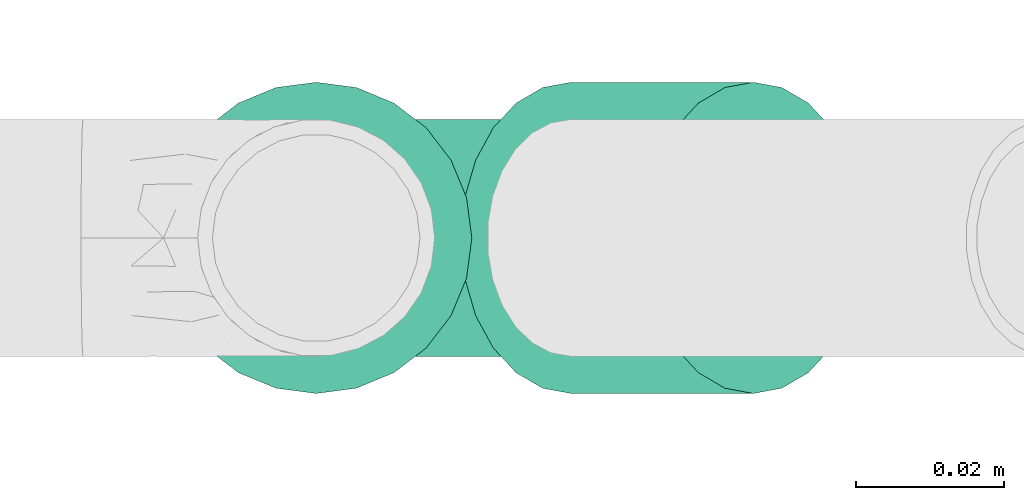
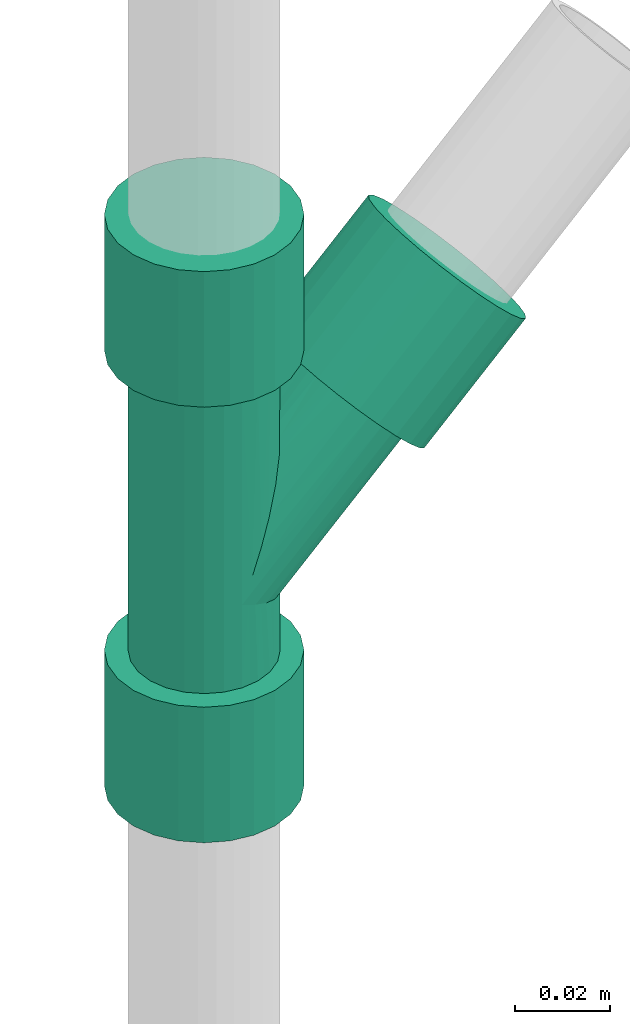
# One storey, part 61 of 83: 1 flow fitting.
"""IFC2X3 building model written with IfcOpenShell, lengths in millimetres."""

import ifcopenshell
import ifcopenshell.guid

model = None  # the IFC model being written
_history = None  # IfcOwnerHistory: only IFC2X3 demands one
_inside = {}  # id of a spatial element -> (the spatial element, [elements in it])
_under = {}  # id of a project, library or spatial element -> (it, [spatial elements below it])
_declared = {}  # id of a project -> (the project, [libraries it declares])
_typed = {}  # id of a type object -> (the type object, [elements of that type])
_made_of = {}  # id of a material, layer set ... -> (it, [elements and type objects made of it])


def new_model(schema):
    """Start an empty IFC model of exactly this schema.

    Asked for "IFC4X3", IfcOpenShell would pick the latest addendum, in which some entities
    have other attributes; the version numbers below select the first issue.
    IFC2X3 requires an IfcOwnerHistory on every rooted entity: one is made here for all.
    """
    global model, _history
    if schema == "IFC4X3":
        model = ifcopenshell.file(schema_version=(4, 3, 0, 0))
    else:
        model = ifcopenshell.file(schema=schema)
    _inside.clear()
    _under.clear()
    _declared.clear()
    _typed.clear()
    _made_of.clear()
    _history = None
    if model.schema == "IFC2X3":
        org = make("IfcOrganization", Name="unknown")
        user = make(
            "IfcPersonAndOrganization",
            ThePerson=make("IfcPerson", FamilyName="unknown"),
            TheOrganization=org,
        )
        app = make(
            "IfcApplication",
            ApplicationDeveloper=org,
            Version="unknown",
            ApplicationFullName="unknown",
            ApplicationIdentifier="unknown",
        )
        _history = make(
            "IfcOwnerHistory",
            OwningUser=user,
            OwningApplication=app,
            ChangeAction="ADDED",
            CreationDate=0,
        )
    return model


def make(cls, **values):
    """One entity of the class cls with the attributes given. An attribute that is None is left unset."""
    return model.create_entity(
        cls, **{name: value for name, value in values.items() if value is not None}
    )


def entity(cls, *values):
    """Any entity or typed value of the class cls, its attributes in the order of the schema. None: left unset."""
    e = model.create_entity(cls)
    for i, value in enumerate(values):
        if value is not None:
            e[i] = value
    return e


def rooted(cls, **values):
    """An entity with a GlobalId (a new one), such as an element, a storey or a relation."""
    return make(cls, GlobalId=ifcopenshell.guid.new(), OwnerHistory=_history, **values)


def si_unit(unit_type, name, prefix=None):
    """IfcSIUnit, for example si_unit("LENGTHUNIT", "METRE", prefix="MILLI")."""
    return make("IfcSIUnit", UnitType=unit_type, Prefix=prefix, Name=name)


def converted_unit(unit_type, name, factor, base, dimensions=None, offset=None):
    """IfcConversionBasedUnit, such as the inch: factor (a typed value) times the base unit."""
    return make(
        "IfcConversionBasedUnit"
        if offset is None
        else "IfcConversionBasedUnitWithOffset",
        ConversionOffset=offset,
        Dimensions=None
        if dimensions is None
        else entity("IfcDimensionalExponents", *dimensions),
        UnitType=unit_type,
        Name=name,
        ConversionFactor=make(
            "IfcMeasureWithUnit", ValueComponent=factor, UnitComponent=base
        ),
    )


def derived_unit(unit_type, elements):
    """IfcDerivedUnit: a product of units, each with its exponent."""
    return make(
        "IfcDerivedUnit",
        Elements=[
            make("IfcDerivedUnitElement", Unit=unit, Exponent=power)
            for unit, power in elements
        ],
        UnitType=unit_type,
    )


def assignment(units):
    """IfcUnitAssignment: the units of a project."""
    return None if units is None else make("IfcUnitAssignment", Units=units)


def point(xyz):
    """IfcCartesianPoint."""
    return None if xyz is None else make("IfcCartesianPoint", Coordinates=xyz)


def direction(xyz):
    """IfcDirection."""
    return None if xyz is None else make("IfcDirection", DirectionRatios=xyz)


def frame(location, z_axis=None, x_axis=None):
    """IfcAxis2Placement3D, a coordinate frame: its origin and axes. An axis left out is left unset."""
    return make(
        "IfcAxis2Placement3D",
        Location=point(location),
        Axis=direction(z_axis),
        RefDirection=direction(x_axis),
    )


def origin_with_axes():
    """The frame at (0, 0, 0) with the z axis (0, 0, 1) and the x axis (1, 0, 0) written out."""
    return frame((0.0, 0.0, 0.0), z_axis=(0.0, 0.0, 1.0), x_axis=(1.0, 0.0, 0.0))


def place(relative_to, where):
    """IfcLocalPlacement: puts the frame where relative to a parent placement (None: the world)."""
    return make(
        "IfcLocalPlacement", PlacementRelTo=relative_to, RelativePlacement=where
    )


def context(
    kind, dimensions, precision=None, world=None, true_north=None, identifier=None
):
    """IfcGeometricRepresentationContext, for example the 3D "Model" context."""
    return make(
        "IfcGeometricRepresentationContext",
        ContextIdentifier=identifier,
        ContextType=kind,
        CoordinateSpaceDimension=dimensions,
        Precision=precision,
        WorldCoordinateSystem=world,
        TrueNorth=true_north,
    )


def subcontext(parent, identifier, kind, view, scale=None):
    """IfcGeometricRepresentationSubContext, for example "Body" below "Model"."""
    return make(
        "IfcGeometricRepresentationSubContext",
        ContextIdentifier=identifier,
        ContextType=kind,
        ParentContext=parent,
        TargetScale=scale,
        TargetView=view,
    )


def project(units=None, contexts=None):
    """IfcProject with its units and contexts."""
    return rooted(
        "IfcProject",
        Name="project",
        RepresentationContexts=contexts,
        UnitsInContext=assignment(units),
    )


def spatial(cls, under=None, at=None, **own):
    """A site, building, storey or space (cls), placed at a placement, below another one or the project."""
    s = rooted(cls, ObjectPlacement=at, **own)
    if under is not None:
        _under.setdefault(under.id(), (under, []))[1].append(s)
    return s


def faces_of(points, faces, orient=None, outer=None):
    """IfcFace entities. A face is a list of loops; a loop is a list of indices into points, from 0.

    orient and outer hold one flag for each loop. By default every Orientation is true, the
    first loop of a face is its IfcFaceOuterBound and the others are IfcFaceBound.
    """
    made = []
    for i, loops in enumerate(faces):
        bounds = []
        for j, loop in enumerate(loops):
            is_outer = j == 0 if outer is None else outer[i][j]
            bounds.append(
                make(
                    "IfcFaceOuterBound" if is_outer else "IfcFaceBound",
                    Bound=make("IfcPolyLoop", Polygon=[points[k] for k in loop]),
                    Orientation=True if orient is None else orient[i][j],
                )
            )
        made.append(make("IfcFace", Bounds=bounds))
    return made


def open_shell(faces, orient=None, outer=None):
    """The faces of one IfcOpenShell. surface_model builds it on its shared points."""
    return ("IfcOpenShell", faces, orient, outer)


def surface_model(cls, points, shells):
    """IfcFaceBasedSurfaceModel or IfcShellBasedSurfaceModel (cls): surfaces that need not close."""
    shared = [point(p) for p in points]
    made = [make(c, CfsFaces=faces_of(shared, fs, o, b)) for c, fs, o, b in shells]
    if cls == "IfcFaceBasedSurfaceModel":
        return make(cls, FbsmFaces=made)
    return make(cls, SbsmBoundary=made)


def shape(context_of_items, identifier, shape_type, items):
    """IfcShapeRepresentation: the items that make up one representation, for example the "Body"."""
    return make(
        "IfcShapeRepresentation",
        ContextOfItems=context_of_items,
        RepresentationIdentifier=identifier,
        RepresentationType=shape_type,
        Items=items,
    )


def source(mapping_origin, context_of_items, identifier, shape_type, items):
    """IfcRepresentationMap: a shape defined once, which mapped items show again and again."""
    return make(
        "IfcRepresentationMap",
        MappingOrigin=mapping_origin,
        MappedRepresentation=shape(context_of_items, identifier, shape_type, items),
    )


def transform(
    local_origin,
    x_axis=None,
    y_axis=None,
    z_axis=None,
    scale=None,
    scale2=None,
    scale3=None,
    uniform=True,
):
    """IfcCartesianTransformationOperator3D, or its non-uniform kind. x_axis, y_axis, z_axis: its Axis1, 2, 3."""
    if uniform:
        return make(
            "IfcCartesianTransformationOperator3D",
            Axis1=direction(x_axis),
            Axis2=direction(y_axis),
            LocalOrigin=point(local_origin),
            Scale=scale,
            Axis3=direction(z_axis),
        )
    return make(
        "IfcCartesianTransformationOperator3DnonUniform",
        Axis1=direction(x_axis),
        Axis2=direction(y_axis),
        LocalOrigin=point(local_origin),
        Scale=scale,
        Axis3=direction(z_axis),
        Scale2=scale2,
        Scale3=scale3,
    )


def mapped(mapping_source, mapping_target):
    """IfcMappedItem: shows the shape of a source again, moved by a transform."""
    return make(
        "IfcMappedItem", MappingSource=mapping_source, MappingTarget=mapping_target
    )


def made_of(thing, what):
    """Note that an element or type object is made of a material, layer set ...; save() writes the relation."""
    if what is not None:
        _made_of.setdefault(what.id(), (what, []))[1].append(thing)
    return thing


def type_object(cls, material=None, **own):
    """A type object (cls), such as IfcWallType, which elements share."""
    return made_of(rooted(cls, **own), material)


def element(
    cls,
    number,
    at=None,
    inside=None,
    cuts=None,
    type_object=None,
    material=None,
    context=None,
    identifier="Body",
    shape_type=None,
    held_by="IfcProductDefinitionShape",
    body=None,
    shapes=None,
    **own,
):
    """One element of the class cls, such as IfcWall. Its Tag is "e" and its number.

    at: its placement. inside: the storey or other place that contains it. cuts: it is an
    opening in that element (IfcRelVoidsElement). A single representation is given by context,
    identifier, shape_type and body (its items); several are given by shapes. held_by: the class
    of the entity that holds the representations. save() writes the other relations.
    """
    e = rooted(cls, Tag="e%d" % number, ObjectPlacement=at, **own)
    if body is not None:
        shapes = [shape(context, identifier, shape_type, body)]
    if shapes is not None:
        e.Representation = make(held_by, Representations=shapes)
    if inside is not None:
        _inside.setdefault(inside.id(), (inside, []))[1].append(e)
    if cuts is not None:
        rooted(
            "IfcRelVoidsElement", RelatingBuildingElement=cuts, RelatedOpeningElement=e
        )
    if type_object is not None:
        _typed.setdefault(type_object.id(), (type_object, []))[1].append(e)
    return made_of(e, material)


def aggregate(whole, parts):
    """IfcRelAggregates: a whole, such as a stair, and the parts it consists of."""
    return rooted("IfcRelAggregates", RelatingObject=whole, RelatedObjects=parts)


def save(model, path):
    """Write the relations noted so far, then the file.

    IfcRelAggregates (storeys below a building ...), IfcRelContainedInSpatialStructure (elements
    in a storey), IfcRelDefinesByType, IfcRelAssociatesMaterial and IfcRelDeclares: one each for
    every whole, place, type object, material and project.
    """
    for whole, parts in _under.values():
        aggregate(whole, parts)
    for where, things in _inside.values():
        rooted(
            "IfcRelContainedInSpatialStructure",
            RelatedElements=things,
            RelatingStructure=where,
        )
    for kind, things in _typed.values():
        rooted("IfcRelDefinesByType", RelatedObjects=things, RelatingType=kind)
    for what, things in _made_of.values():
        rooted("IfcRelAssociatesMaterial", RelatedObjects=things, RelatingMaterial=what)
    for by, libraries in _declared.values():
        rooted("IfcRelDeclares", RelatingContext=by, RelatedDefinitions=libraries)
    model.write(path)


model = new_model("IFC2X3")

# Units and contexts
model_context = context("Model", 3, precision=0.01, world=frame((0.0, 4.29681676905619e-09, 0.0)), true_north=direction((4.01073788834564e-13, 1.0)))
plan_context = context("Plan", 3, precision=0.01, world=frame((0.0, 4.29681676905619e-09, 0.0)), true_north=direction((4.01073788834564e-13, 1.0)))
body_context = subcontext(model_context, "Body", "Model", "MODEL_VIEW")
ifc_project = project(units=[converted_unit("PLANEANGLEUNIT", "DEGREE", entity("IfcPositiveLengthMeasure", 0.0174532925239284), si_unit("PLANEANGLEUNIT", "RADIAN"), dimensions=[0, 0, 0, 0, 0, 0, 0]), si_unit("AREAUNIT", "SQUARE_METRE"), si_unit("LENGTHUNIT", "METRE", prefix="MILLI"), si_unit("MASSUNIT", "GRAM", prefix="KILO"), si_unit("POWERUNIT", "WATT"), si_unit("PRESSUREUNIT", "PASCAL"), si_unit("FORCEUNIT", "NEWTON", prefix="KILO"), si_unit("ELECTRICVOLTAGEUNIT", "VOLT"), si_unit("ELECTRICCURRENTUNIT", "AMPERE"), si_unit("THERMODYNAMICTEMPERATUREUNIT", "DEGREE_CELSIUS"), si_unit("TIMEUNIT", "SECOND"), si_unit("VOLUMEUNIT", "CUBIC_METRE"), derived_unit("LINEARVELOCITYUNIT", [(si_unit("LENGTHUNIT", "METRE"), 1), (si_unit("TIMEUNIT", "SECOND"), -1)]), derived_unit("VOLUMETRICFLOWRATEUNIT", [(si_unit("VOLUMEUNIT", "CUBIC_METRE"), 1), (si_unit("TIMEUNIT", "SECOND"), -1)]), derived_unit("THERMALTRANSMITTANCEUNIT", [(si_unit("POWERUNIT", "WATT"), 1), (si_unit("THERMODYNAMICTEMPERATUREUNIT", "KELVIN"), -1), (si_unit("AREAUNIT", "SQUARE_METRE"), -1)]), derived_unit("SOUNDPRESSUREUNIT", [(si_unit("PRESSUREUNIT", "PASCAL"), 1)])], contexts=[model_context, plan_context])

# Site, building, storey
site_placement = place(None, frame((0.0, -4.29681676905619e-09, 0.0), z_axis=(0.0, 0.0, 1.0), x_axis=(1.0, 0.0, 0.0)))
site = spatial("IfcSite", under=ifc_project, at=site_placement, Name="ENGM", CompositionType="ELEMENT")
building_placement = place(site_placement, frame((0.0, 4.29681676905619e-09, 0.0), z_axis=(0.0, 0.0, 1.0), x_axis=(1.0, 0.0, 0.0)))
building = spatial("IfcBuilding", under=site, at=building_placement, Name="TI", CompositionType="ELEMENT")
storey_placement = place(building_placement, frame((0.0, 0.0, 204000.0), z_axis=(0.0, 0.0, 1.0), x_axis=(1.0, 0.0, 0.0)))
storey = spatial("IfcBuildingStorey", under=building, at=storey_placement, Name="Nivå D", CompositionType="ELEMENT", Elevation=204000.0)

# Flow fitting
pipe_fitting_type = type_object("IfcPipeFittingType", Name="magi_sewer_tee_wye_NOR", PredefinedType="JUNCTION")
shared_shape = source(origin_with_axes(), body_context, "Body", "SurfaceModel", [
    surface_model("IfcShellBasedSurfaceModel", [(90.49848, 5.4352, -20.28444), (90.49848, 10.5, -18.18653), (90.49848, 14.84924, -14.84924), (90.49848, -20.28444, 5.4352), (90.49848, 20.28444, 5.4352), (90.49848, 18.18653, -10.5), (90.49848, 20.28444, -5.4352), (90.49848, -10.5, -18.18653), (90.49848, 0.0, -21.0), (90.49848, -5.4352, -20.28444), (90.49848, -18.18653, -10.5), (90.49848, -14.84924, -14.84924), (90.49848, -21.0, 0.0), (90.49848, -20.28444, -5.4352), (90.49848, 21.0, 0.0), (90.49848, 18.18653, 10.5), (90.49848, 14.84924, 14.84924), (90.49848, 10.5, 18.18653), (90.49848, 5.4352, 20.28444), (90.49848, 0.0, 21.0), (90.49848, -14.84924, 14.84924), (90.49848, -18.18653, 10.5), (90.49848, -10.5, 18.18653), (90.49848, -5.4352, 20.28444), (55.69849, 0.0, 21.0), (55.69849, 5.4352, 20.28444), (55.69849, 10.5, 18.18653), (55.69849, 14.84924, 14.84924), (55.69849, 18.18653, 10.5), (55.69849, 20.28444, 5.4352), (55.69849, -20.28444, 5.4352), (55.69849, -10.5, -18.18653), (55.69849, -10.5, 18.18653), (55.69849, -5.4352, 20.28444), (55.69849, -14.84924, 14.84924), (55.69849, -18.18653, 10.5), (55.69849, -21.0, 0.0), (55.69849, 20.28444, -5.4352), (55.69849, 14.84924, -14.84924), (55.69849, 18.18653, -10.5), (55.69849, 10.5, -18.18653), (55.69849, 5.4352, -20.28444), (55.69849, -14.84924, -14.84924), (55.69849, -18.18653, -10.5), (55.69849, -20.28444, -5.4352), (55.69849, 0.0, -21.0), (55.69849, -5.4352, -20.28444), (55.69849, 21.0, 0.0), (41.8094, -26.96015, -18.18653), (38.22804, -30.54151, -20.28444), (34.38478, -34.38478, -21.0), (21.52496, -47.2446, 10.5), (47.2446, -21.52496, -10.5), (44.88478, -23.88478, -14.84924), (19.53553, -49.23402, 0.0), (26.96015, -41.8094, -18.18653), (23.88478, -44.88478, -14.84924), (30.54151, -38.22804, -20.28444), (20.04151, -48.72804, -5.4352), (21.52496, -47.2446, -10.5), (49.23402, -19.53553, 0.0), (48.72804, -20.04151, -5.4352), (47.2446, -21.52496, 10.5), (48.72804, -20.04151, 5.4352), (44.88478, -23.88478, 14.84924), (34.38478, -34.38478, 21.0), (41.8094, -26.96015, 18.18653), (38.22804, -30.54151, 20.28444), (20.04151, -48.72804, 5.4352), (23.88478, -44.88478, 14.84924), (30.54151, -38.22804, 20.28444), (26.96015, -41.8094, 18.18653), (62.83536, -55.14883, -20.28444), (51.56747, -66.41671, -18.18653), (58.99209, -58.99209, -21.0), (69.49209, -48.49209, -14.84924), (66.41671, -51.56747, -18.18653), (71.85191, -46.13227, -10.5), (73.33536, -44.64882, -5.4352), (46.13227, -71.85191, 10.5), (44.14285, -73.84134, 0.0), (48.49209, -69.49209, -14.84924), (55.14883, -62.83536, -20.28444), (46.13227, -71.85191, -10.5), (44.64882, -73.33536, -5.4352), (73.33536, -44.64882, 5.4352), (51.56747, -66.41671, 18.18653), (73.84134, -44.14285, 0.0), (69.49209, -48.49209, 14.84924), (71.85191, -46.13227, 10.5), (66.41671, -51.56747, 18.18653), (58.99209, -58.99209, 21.0), (62.83536, -55.14883, 20.28444), (48.49209, -69.49209, 14.84924), (44.64882, -73.33536, 5.4352), (55.14883, -62.83536, 20.28444), (-56.11371, -5.4352, -20.28444), (-56.11371, -10.5, -18.18653), (-56.11371, -14.84924, -14.84924), (-56.11371, 20.28444, 5.4352), (-56.11371, -20.28444, 5.4352), (-56.11371, -18.18653, -10.5), (-56.11371, -20.28444, -5.4352), (-56.11371, 10.5, -18.18653), (-56.11371, 0.0, -21.0), (-56.11371, 5.4352, -20.28444), (-56.11371, 18.18653, -10.5), (-56.11371, 14.84924, -14.84924), (-56.11371, 21.0, 0.0), (-56.11371, 20.28444, -5.4352), (-56.11371, -21.0, 0.0), (-56.11371, -18.18653, 10.5), (-56.11371, -14.84924, 14.84924), (-56.11371, -10.5, 18.18653), (-56.11371, -5.4352, 20.28444), (-56.11371, 0.0, 21.0), (-56.11371, 14.84924, 14.84924), (-56.11371, 18.18653, 10.5), (-56.11371, 10.5, 18.18653), (-56.11371, 5.4352, 20.28444), (-21.31371, 0.0, 21.0), (-21.31371, -5.4352, 20.28444), (-21.31371, -10.5, 18.18653), (-21.31371, -14.84924, 14.84924), (-21.31371, -18.18653, 10.5), (-21.31371, -20.28444, 5.4352), (-21.31371, 20.28444, 5.4352), (-21.31371, 10.5, -18.18653), (-21.31371, 10.5, 18.18653), (-21.31371, 5.4352, 20.28444), (-21.31371, 14.84924, 14.84924), (-21.31371, 18.18653, 10.5), (-21.31371, 21.0, 0.0), (-21.31371, -20.28444, -5.4352), (-21.31371, -14.84924, -14.84924), (-21.31371, -18.18653, -10.5), (-21.31371, -10.5, -18.18653), (-21.31371, -5.4352, -20.28444), (-21.31371, 14.84924, -14.84924), (-21.31371, 18.18653, -10.5), (-21.31371, 20.28444, -5.4352), (-21.31371, 0.0, -21.0), (-21.31371, 5.4352, -20.28444), (-21.31371, -21.0, 0.0), (55.69849, 8.0, -13.85641), (55.69849, -11.31371, -11.31371), (55.69849, 4.1411, -15.45481), (55.69849, 15.45481, -4.1411), (55.69849, 11.31371, -11.31371), (55.69849, 13.85641, -8.0), (55.69849, 8.0, 13.85641), (55.69849, -15.45481, -4.1411), (55.69849, -4.1411, -15.45481), (55.69849, -8.0, -13.85641), (55.69849, 0.0, -16.0), (55.69849, -13.85641, -8.0), (55.69849, 16.0, 0.0), (55.69849, 15.45481, 4.1411), (55.69849, 13.85641, 8.0), (55.69849, 11.31371, 11.31371), (55.69849, 4.1411, 15.45481), (55.69849, 0.0, 16.0), (55.69849, -11.31371, 11.31371), (55.69849, -15.45481, 4.1411), (55.69849, -13.85641, 8.0), (55.69849, -16.0, 0.0), (55.69849, -4.1411, 15.45481), (55.69849, -8.0, 13.85641), (-21.31371, 0.0, 16.0), (-21.31371, 4.1411, 15.45481), (-21.31371, 8.0, 13.85641), (-21.31371, -4.1411, 15.45481), (-21.31371, 13.85641, 8.0), (-21.31371, 15.45481, 4.1411), (-21.31371, 11.31371, 11.31371), (-21.31371, 4.1411, -15.45481), (-21.31371, -11.31371, 11.31371), (-21.31371, -8.0, 13.85641), (-21.31371, -15.45481, 4.1411), (-21.31371, -13.85641, 8.0), (-21.31371, -16.0, 0.0), (-21.31371, -15.45481, -4.1411), (-21.31371, 15.45481, -4.1411), (-21.31371, 11.31371, -11.31371), (-21.31371, 13.85641, -8.0), (-21.31371, 8.0, -13.85641), (-21.31371, -8.0, -13.85641), (-21.31371, -11.31371, -11.31371), (-21.31371, -13.85641, -8.0), (-21.31371, -4.1411, -15.45481), (-21.31371, 0.0, -16.0), (-21.31371, 16.0, 0.0), (-21.31371, -15.72741, -2.07055), (-6.44749, -15.56563, -3.70286), (-4.56467, -11.02008, -11.46124), (-21.31371, -9.65685, -12.58506), (-4.03074, -9.73107, -12.70064), (-6.53746, -15.78281, -1.85143), (-6.18557, -14.93329, -5.43901), (-21.31371, -14.65561, -6.07055), (-5.92364, -14.30094, -7.17517), (-3.40715, -8.2256, -13.61048), (-5.0986, -12.3091, -10.22184), (-21.31371, -12.58506, -9.65685), (-5.51112, -13.30502, -8.69851), (55.69849, -14.65561, -6.07055), (36.54403, -15.13703, -4.46838), (35.84957, -14.84938, -5.95785), (55.69849, -15.72741, -2.07055), (37.93296, -15.71234, -1.48946), (37.2385, -15.42469, -2.97892), (30.64585, -12.69393, -9.73982), (55.69849, -12.58506, -9.65685), (33.24771, -13.77165, -7.84884), (-1.41983, -3.42778, -15.62851), (-21.31371, -2.07055, -15.72741), (24.81273, -10.27777, -12.26244), (18.73294, -7.75944, -13.99254), (-6.62742, -16.0, 0.0), (-0.70992, -1.71389, -15.81426), (12.53545, -5.19235, -15.13405), (-2.78357, -6.72012, -14.52033), (-2.1017, -5.07395, -15.07442), (-21.31371, -6.07055, -14.65561), (0.0, 0.0, -16.0), (38.62742, -16.0, 0.0), (6.28065, -2.60153, -15.78708), (37.93296, -15.71234, 1.48946), (-21.31371, -9.65685, 12.58506), (-3.40715, -8.2256, 13.61048), (36.54403, -15.13703, 4.46838), (37.2385, -15.42469, 2.97892), (-21.31371, -2.07055, 15.72741), (-1.41983, -3.42778, 15.62851), (0.0, 0.0, 16.0), (-0.70992, -1.71389, 15.81426), (55.69849, -14.65561, 6.07055), (35.84957, -14.84938, 5.95785), (-2.1017, -5.07395, 15.07442), (-5.92364, -14.30094, 7.17517), (-5.51112, -13.30502, 8.69851), (-21.31371, -6.07055, 14.65561), (-6.53746, -15.78281, 1.85143), (-21.31371, -15.72741, 2.07055), (6.28065, -2.60153, 15.78708), (12.53545, -5.19235, 15.13405), (33.24771, -13.77165, 7.84884), (55.69849, -12.58506, 9.65685), (30.64585, -12.69393, 9.73982), (-21.31371, -12.58506, 9.65685), (-4.56467, -11.02008, 11.46124), (-4.03074, -9.73107, 12.70064), (-21.31371, -14.65561, 6.07055), (-5.0986, -12.3091, 10.22184), (-6.18557, -14.93329, 5.43901), (-6.44749, -15.56563, 3.70286), (55.69849, -15.72741, 2.07055), (18.73294, -7.75944, 13.99254), (-2.78357, -6.72012, 14.52033), (24.81273, -10.27777, 12.26244), (37.31298, -31.45657, -15.45481), (28.72792, -40.04163, -13.85641), (34.38478, -34.38478, -16.0), (42.38478, -26.38478, -11.31371), (40.04163, -28.72792, -13.85641), (44.18274, -24.58682, -8.0), (45.31298, -23.45657, -4.1411), (24.58682, -44.18274, -8.0), (26.38478, -42.38478, -11.31371), (31.45657, -37.31298, -15.45481), (23.45657, -45.31298, -4.1411), (45.31298, -23.45657, 4.1411), (24.58682, -44.18274, 8.0), (23.07107, -45.69849, 0.0), (26.38478, -42.38478, 11.31371), (42.38478, -26.38478, 11.31371), (44.18274, -24.58682, 8.0), (40.04163, -28.72792, 13.85641), (34.38478, -34.38478, 16.0), (37.31298, -31.45657, 15.45481), (23.45657, -45.31298, 4.1411), (31.45657, -37.31298, 15.45481), (28.72792, -40.04163, 13.85641), (45.69849, -23.07107, 0.0), (45.50573, -23.26382, 2.07055), (43.28375, -25.4858, 9.65685), (44.74786, -24.02169, 6.07055), (45.50573, -23.26382, -2.07055), (43.28375, -25.4858, -9.65685), (44.74786, -24.02169, -6.07055)], [open_shell([[[0, 1, 2]], [[3, 0, 2]], [[4, 5, 6]], [[3, 7, 0]], [[2, 5, 4]], [[8, 7, 9]], [[8, 0, 7]], [[7, 10, 11]], [[7, 3, 10]], [[10, 12, 13]], [[14, 4, 6]], [[4, 15, 16]], [[3, 4, 16]], [[17, 18, 19]], [[17, 19, 16]], [[20, 16, 19]], [[3, 20, 21]], [[12, 10, 3]], [[19, 22, 20]], [[20, 3, 16]], [[22, 19, 23]], [[3, 2, 4]], [[24, 25, 26]], [[24, 26, 27]], [[27, 28, 29]], [[27, 29, 24]], [[30, 24, 31]], [[24, 32, 33]], [[24, 34, 32]], [[34, 30, 35]], [[24, 30, 34]], [[30, 31, 36]], [[31, 24, 29]], [[37, 38, 29]], [[38, 37, 39]], [[38, 40, 41]], [[41, 29, 38]], [[29, 41, 31]], [[36, 42, 43]], [[44, 36, 43]], [[31, 45, 46]], [[36, 31, 42]], [[45, 31, 41]], [[37, 29, 47]], [[13, 36, 44]], [[7, 31, 46]], [[31, 11, 42]], [[9, 46, 45]], [[44, 10, 13]], [[13, 12, 36]], [[43, 11, 10]], [[43, 42, 11]], [[11, 31, 7]], [[46, 9, 7]], [[43, 10, 44]], [[45, 8, 9]], [[0, 41, 40]], [[38, 1, 40]], [[5, 39, 37]], [[38, 39, 2]], [[6, 37, 47]], [[41, 0, 8]], [[40, 1, 0]], [[38, 2, 1]], [[39, 5, 2]], [[6, 5, 37]], [[47, 14, 6]], [[41, 8, 45]], [[29, 4, 47]], [[28, 15, 29]], [[28, 27, 16]], [[27, 26, 17]], [[29, 15, 4]], [[4, 14, 47]], [[25, 18, 17]], [[18, 25, 24]], [[16, 27, 17]], [[16, 15, 28]], [[26, 25, 17]], [[24, 19, 18]], [[23, 33, 32]], [[34, 22, 32]], [[21, 35, 30]], [[34, 35, 20]], [[3, 30, 36]], [[33, 23, 19]], [[32, 22, 23]], [[34, 20, 22]], [[35, 21, 20]], [[3, 21, 30]], [[36, 12, 3]], [[33, 19, 24]], [[48, 49, 50]], [[48, 50, 51]], [[52, 53, 51]], [[48, 51, 53]], [[51, 50, 54]], [[55, 56, 57]], [[54, 57, 56]], [[58, 54, 59]], [[56, 59, 54]], [[54, 50, 57]], [[52, 60, 61]], [[62, 63, 60]], [[64, 62, 60]], [[65, 66, 60]], [[64, 60, 66]], [[67, 66, 65]], [[54, 68, 51]], [[51, 69, 60]], [[70, 65, 71]], [[69, 71, 65]], [[69, 65, 60]], [[60, 52, 51]], [[72, 73, 74]], [[75, 72, 76]], [[75, 77, 78]], [[72, 75, 79]], [[79, 80, 72]], [[73, 80, 81]], [[73, 82, 74]], [[83, 80, 84]], [[80, 83, 81]], [[72, 80, 73]], [[79, 75, 78]], [[85, 86, 87]], [[88, 85, 89]], [[86, 85, 90]], [[90, 85, 88]], [[91, 90, 92]], [[79, 86, 93]], [[94, 80, 79]], [[86, 91, 95]], [[86, 79, 87]], [[91, 86, 90]], [[79, 78, 87]], [[54, 80, 94]], [[68, 94, 79]], [[71, 93, 86]], [[70, 86, 95]], [[79, 93, 51]], [[94, 68, 54]], [[68, 79, 51]], [[69, 93, 71]], [[71, 86, 70]], [[95, 65, 70]], [[51, 93, 69]], [[95, 91, 65]], [[66, 92, 90]], [[88, 64, 90]], [[63, 89, 85]], [[88, 89, 62]], [[60, 85, 87]], [[92, 67, 91]], [[92, 66, 67]], [[91, 67, 65]], [[90, 64, 66]], [[88, 62, 64]], [[63, 62, 89]], [[85, 60, 63]], [[78, 60, 87]], [[77, 61, 78]], [[75, 76, 53]], [[77, 75, 52]], [[49, 76, 72]], [[77, 52, 61]], [[61, 60, 78]], [[48, 53, 76]], [[49, 72, 50]], [[53, 52, 75]], [[76, 49, 48]], [[72, 74, 50]], [[55, 82, 73]], [[81, 56, 73]], [[58, 83, 84]], [[81, 83, 59]], [[54, 84, 80]], [[82, 57, 74]], [[82, 55, 57]], [[74, 57, 50]], [[73, 56, 55]], [[81, 59, 56]], [[58, 59, 83]], [[84, 54, 58]], [[96, 97, 98]], [[99, 96, 98]], [[100, 101, 102]], [[99, 103, 96]], [[98, 101, 100]], [[104, 103, 105]], [[104, 96, 103]], [[103, 106, 107]], [[103, 99, 106]], [[106, 108, 109]], [[110, 100, 102]], [[100, 111, 112]], [[99, 100, 112]], [[113, 114, 115]], [[113, 115, 112]], [[116, 112, 115]], [[99, 116, 117]], [[108, 106, 99]], [[115, 118, 116]], [[116, 99, 112]], [[118, 115, 119]], [[99, 98, 100]], [[120, 121, 122]], [[120, 122, 123]], [[123, 124, 125]], [[123, 125, 120]], [[126, 120, 127]], [[120, 128, 129]], [[120, 130, 128]], [[130, 126, 131]], [[120, 126, 130]], [[126, 127, 132]], [[127, 120, 125]], [[133, 134, 125]], [[134, 133, 135]], [[134, 136, 137]], [[137, 125, 134]], [[125, 137, 127]], [[132, 138, 139]], [[140, 132, 139]], [[127, 141, 142]], [[132, 127, 138]], [[141, 127, 137]], [[133, 125, 143]], [[109, 132, 140]], [[103, 127, 142]], [[127, 107, 138]], [[105, 142, 141]], [[140, 106, 109]], [[109, 108, 132]], [[139, 107, 106]], [[139, 138, 107]], [[107, 127, 103]], [[142, 105, 103]], [[139, 106, 140]], [[141, 104, 105]], [[96, 137, 136]], [[134, 97, 136]], [[101, 135, 133]], [[134, 135, 98]], [[102, 133, 143]], [[137, 96, 104]], [[136, 97, 96]], [[134, 98, 97]], [[135, 101, 98]], [[102, 101, 133]], [[143, 110, 102]], [[137, 104, 141]], [[125, 100, 143]], [[124, 111, 125]], [[124, 123, 112]], [[123, 122, 113]], [[125, 111, 100]], [[100, 110, 143]], [[121, 114, 113]], [[114, 121, 120]], [[112, 123, 113]], [[112, 111, 124]], [[122, 121, 113]], [[120, 115, 114]], [[119, 129, 128]], [[130, 118, 128]], [[117, 131, 126]], [[130, 131, 116]], [[99, 126, 132]], [[129, 119, 115]], [[128, 118, 119]], [[130, 116, 118]], [[131, 117, 116]], [[99, 117, 126]], [[132, 108, 99]], [[129, 115, 120]], [[144, 145, 146]], [[147, 144, 148]], [[144, 147, 145]], [[147, 148, 149]], [[147, 150, 151]], [[152, 145, 153]], [[145, 152, 154]], [[145, 151, 155]], [[145, 154, 146]], [[147, 151, 145]], [[147, 156, 157]], [[150, 157, 158]], [[150, 158, 159]], [[150, 160, 161]], [[162, 151, 150]], [[162, 150, 161]], [[163, 162, 164]], [[163, 165, 151]], [[162, 166, 167]], [[151, 162, 163]], [[161, 166, 162]], [[150, 147, 157]], [[168, 169, 170]], [[171, 168, 170]], [[172, 173, 170]], [[172, 170, 174]], [[170, 175, 176]], [[171, 176, 177]], [[171, 170, 176]], [[176, 178, 179]], [[180, 178, 181]], [[178, 176, 181]], [[170, 173, 182]], [[182, 175, 170]], [[183, 182, 184]], [[185, 175, 182]], [[185, 182, 183]], [[176, 175, 186]], [[181, 187, 188]], [[187, 181, 186]], [[175, 189, 186]], [[181, 176, 186]], [[190, 189, 175]], [[182, 173, 191]], [[192, 181, 193]], [[194, 195, 196]], [[180, 192, 197]], [[198, 193, 181]], [[198, 181, 199]], [[200, 198, 199]], [[186, 201, 195]], [[187, 202, 203]], [[202, 187, 194]], [[200, 199, 188]], [[188, 204, 200]], [[196, 195, 201]], [[195, 194, 187]], [[204, 203, 202]], [[205, 206, 207]], [[208, 209, 210]], [[206, 205, 151]], [[210, 151, 208]], [[151, 210, 206]], [[211, 212, 213]], [[214, 189, 215]], [[216, 217, 153]], [[180, 197, 218]], [[216, 145, 211]], [[145, 216, 153]], [[190, 219, 215]], [[212, 155, 213]], [[217, 220, 153]], [[203, 204, 188]], [[186, 221, 201]], [[192, 193, 197]], [[189, 214, 222]], [[221, 186, 223]], [[219, 214, 215]], [[223, 222, 221]], [[222, 223, 189]], [[190, 224, 219]], [[209, 165, 225]], [[224, 190, 175]], [[184, 182, 149]], [[144, 185, 183]], [[148, 183, 184]], [[175, 185, 146]], [[147, 182, 191]], [[226, 224, 154]], [[213, 205, 207]], [[226, 152, 220]], [[152, 226, 154]], [[152, 153, 220]], [[224, 146, 154]], [[211, 145, 212]], [[175, 146, 224]], [[144, 146, 185]], [[144, 183, 148]], [[149, 148, 184]], [[147, 149, 182]], [[191, 156, 147]], [[205, 213, 155]], [[165, 209, 208]], [[165, 227, 225]], [[228, 229, 177]], [[163, 230, 231]], [[174, 158, 172]], [[157, 191, 173]], [[159, 174, 170]], [[172, 157, 173]], [[232, 171, 233]], [[168, 234, 169]], [[232, 235, 168]], [[230, 236, 237]], [[170, 169, 150]], [[238, 233, 171]], [[234, 160, 169]], [[179, 239, 240]], [[157, 172, 158]], [[236, 230, 163]], [[241, 238, 171]], [[150, 159, 170]], [[180, 242, 243]], [[158, 174, 159]], [[156, 191, 157]], [[244, 245, 166]], [[246, 247, 248]], [[161, 160, 234]], [[161, 244, 166]], [[245, 167, 166]], [[160, 150, 169]], [[161, 234, 244]], [[168, 235, 234]], [[179, 240, 249]], [[250, 228, 176]], [[228, 250, 251]], [[239, 179, 252]], [[229, 228, 251]], [[240, 253, 249]], [[218, 242, 180]], [[247, 246, 164]], [[239, 252, 254]], [[255, 243, 242]], [[178, 254, 252]], [[254, 178, 255]], [[256, 231, 227]], [[257, 167, 245]], [[177, 229, 258]], [[167, 259, 162]], [[259, 167, 257]], [[162, 259, 248]], [[253, 176, 249]], [[238, 241, 258]], [[255, 178, 243]], [[176, 253, 250]], [[232, 233, 235]], [[237, 236, 246]], [[236, 164, 246]], [[231, 256, 163]], [[248, 247, 162]], [[165, 256, 227]], [[177, 258, 241]], [[260, 261, 262]], [[263, 260, 264]], [[265, 266, 260]], [[265, 260, 263]], [[261, 260, 266]], [[261, 267, 268]], [[261, 269, 262]], [[261, 270, 267]], [[261, 271, 270]], [[270, 272, 273]], [[271, 261, 266]], [[270, 271, 274]], [[275, 271, 276]], [[274, 271, 277]], [[277, 271, 275]], [[278, 277, 279]], [[274, 272, 270]], [[280, 273, 272]], [[274, 281, 282]], [[281, 274, 278]], [[278, 274, 277]], [[266, 283, 271]], [[255, 218, 273]], [[280, 255, 273]], [[274, 282, 251]], [[253, 272, 274]], [[239, 280, 272]], [[258, 282, 281]], [[227, 283, 225]], [[239, 255, 280]], [[253, 239, 272]], [[271, 231, 230]], [[258, 251, 282]], [[278, 234, 233]], [[258, 281, 233]], [[283, 227, 284]], [[253, 274, 251]], [[248, 275, 285]], [[233, 281, 278]], [[244, 278, 279]], [[277, 257, 279]], [[271, 230, 286]], [[285, 276, 246]], [[259, 277, 275]], [[284, 227, 231]], [[245, 244, 279]], [[257, 245, 279]], [[246, 286, 237]], [[237, 286, 230]], [[286, 246, 276]], [[248, 259, 275]], [[231, 271, 284]], [[248, 285, 246]], [[257, 277, 259]], [[278, 244, 234]], [[266, 210, 287]], [[266, 206, 210]], [[287, 209, 283]], [[213, 288, 211]], [[288, 213, 265]], [[211, 288, 263]], [[206, 289, 207]], [[263, 264, 216]], [[289, 265, 213]], [[287, 210, 209]], [[217, 264, 260]], [[207, 289, 213]], [[216, 211, 263]], [[220, 217, 260]], [[262, 224, 226]], [[220, 260, 226]], [[216, 264, 217]], [[289, 206, 266]], [[226, 260, 262]], [[214, 262, 269]], [[261, 221, 269]], [[267, 270, 200]], [[202, 268, 267]], [[196, 261, 268]], [[193, 270, 273]], [[221, 214, 269]], [[196, 221, 261]], [[283, 209, 225]], [[218, 193, 273]], [[200, 202, 267]], [[193, 200, 270]], [[196, 268, 202]], [[262, 214, 224]]])]),
])
flow_fitting_placement = place(storey_placement, frame((610240.26511, 689251.68976, 7380.04699), z_axis=(0.0, -1.0, 0.0), x_axis=(0.0, 0.0, 1.0)))
element("IfcFlowFitting", 1, at=flow_fitting_placement, inside=storey, type_object=pipe_fitting_type, Name="magi_sewer_tee_wye_NOR", context=body_context, shape_type="MappedRepresentation", body=[
    mapped(shared_shape, transform((0.0, 0.0, 0.0), scale=1.0)),
])

save(model, "model.ifc")
